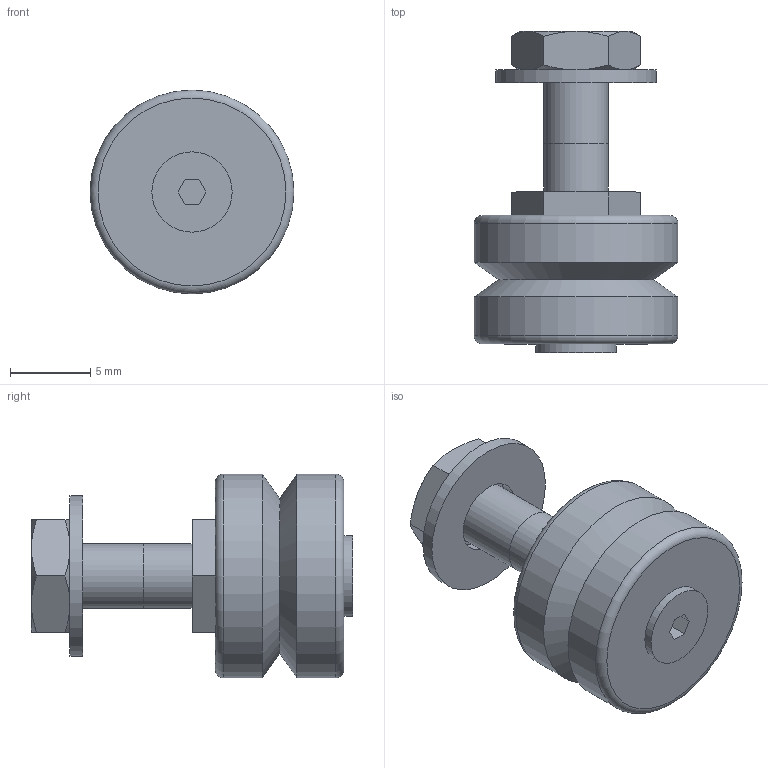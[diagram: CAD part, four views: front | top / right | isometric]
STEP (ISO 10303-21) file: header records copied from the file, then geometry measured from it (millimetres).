
FILE_DESCRIPTION(('STEP AP203'),'1');
FILE_NAME('//192.168.1.1/share/s-4 技術開発/s-4-4_CAD/s-4-4-6_見直し、確認済み/013 修正済み(済)/ジャーナル_TOP/NAL/NAL-13-C.step','2022-03-11T07:33:29',(' '),(' '),'Spatial InterOp 3D',' ',' ');
FILE_SCHEMA(('CONFIG_CONTROL_DESIGN'));
Length unit declared in the file: millimetre
Products named in the file (3): 1; 2; 3
Bounding box: 12.7 x 20 x 12.7 mm (x, y, z)
Volume: 1273.2 mm3; surface area: 1084 mm2
Topology: 3 solids, 3 shells, 52 faces, 113 edges, 70 vertices
Faces by surface type: plane 27, cone 14, cylinder 8, torus 2, sphere 1
Full cylindrical faces by diameter (mm): 3.3 x1, 4 x2, 4.5 x1, 5 x1, 10 x1, 12.7 x2
Entity records: 1494 total; most frequent: CARTESIAN_POINT 321, DIRECTION 212, ORIENTED_EDGE 192, EDGE_CURVE 96, AXIS2_PLACEMENT_3D 85, EDGE_LOOP 72, VERTEX_POINT 66, FACE_OUTER_BOUND 62
